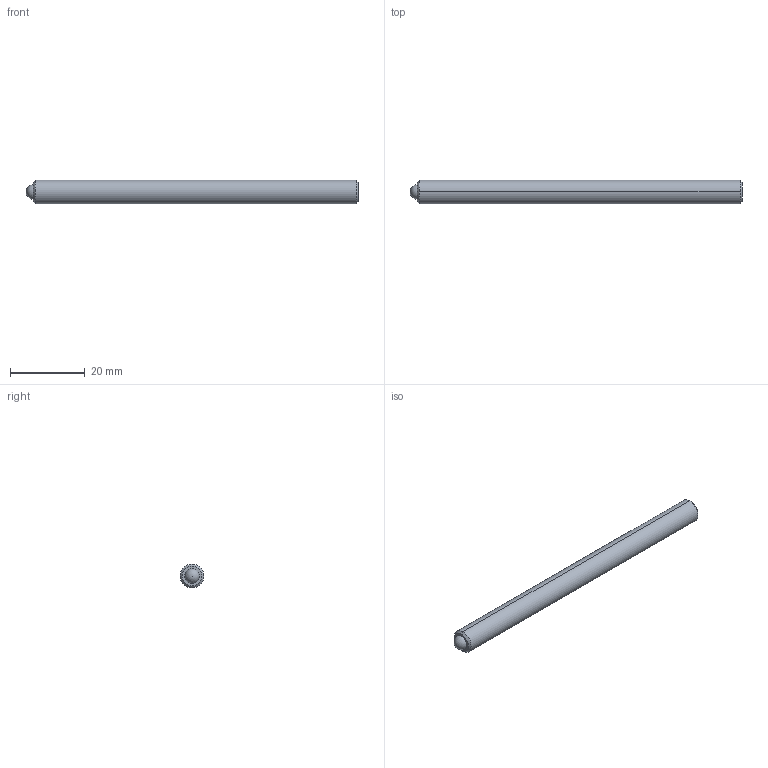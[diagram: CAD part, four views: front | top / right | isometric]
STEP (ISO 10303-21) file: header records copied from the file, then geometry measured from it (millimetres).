
FILE_DESCRIPTION (( 'STEP AP214' ), '1' );
FILE_NAME ('TS250-80-3500.STEP', '2013-02-11T21:12:12', ( 'workpc' ), ( 'Microsoft' ), 'SwSTEP 2.0', 'SolidWorks 2013', '' );
FILE_SCHEMA (( 'AUTOMOTIVE_DESIGN' ));
Length unit declared in the file: inch
Products named in the file (1): TS250-80-3500
Bounding box: 88.9 x 6.35 x 6.35 mm (x, y, z)
Volume: 2744.7 mm3; surface area: 1877.7 mm2
Topology: 2 solids, 2 shells, 20 faces, 45 edges, 29 vertices
Faces by surface type: plane 10, cylinder 4, cone 4, sphere 2
Entity records: 599 total; most frequent: DIRECTION 96, CARTESIAN_POINT 87, ORIENTED_EDGE 80, EDGE_CURVE 40, AXIS2_PLACEMENT_3D 35, VERTEX_POINT 26, LINE 26, VECTOR 26
